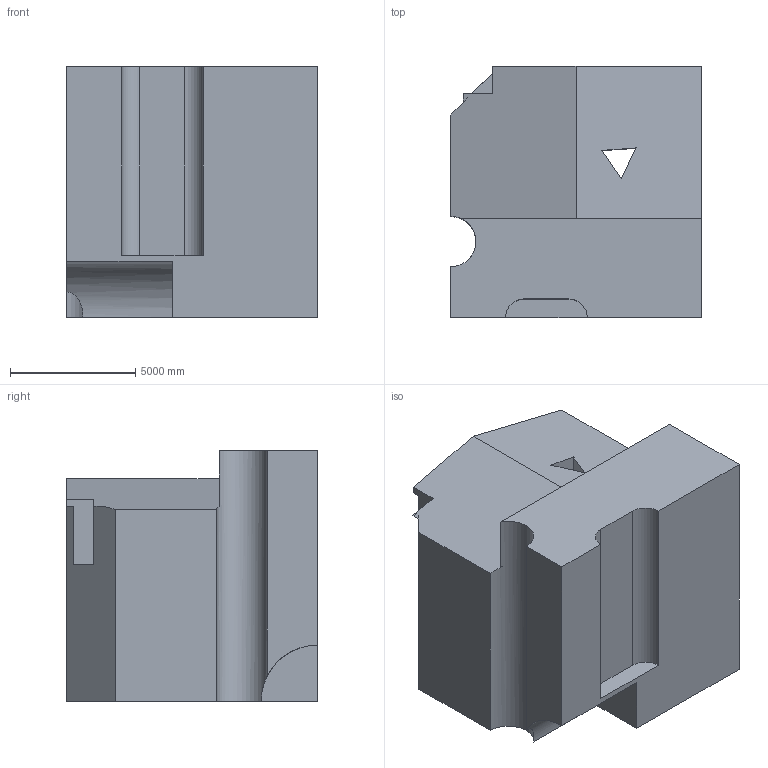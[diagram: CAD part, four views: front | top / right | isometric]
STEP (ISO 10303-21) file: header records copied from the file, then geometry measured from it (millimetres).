
FILE_DESCRIPTION (( 'STEP AP203' ), '1' );
FILE_NAME ('1727.STEP', '2022-08-19T12:07:53', ( 'user' ), ( '' ), 'SwSTEP 2.0', 'SolidWorks 2021', '' );
FILE_SCHEMA (( 'CONFIG_CONTROL_DESIGN' ));
Length unit declared in the file: centimetre
Products named in the file (1): 1727
Bounding box: 10000 x 10000 x 10000 mm (x, y, z)
Volume: 816187035392.5 mm3; surface area: 618246263.2 mm2
Topology: 1 solids, 1 shells, 29 faces, 78 edges, 52 vertices
Faces by surface type: plane 23, cylinder 6
Entity records: 1056 total; most frequent: CARTESIAN_POINT 236, ORIENTED_EDGE 156, DIRECTION 148, EDGE_CURVE 78, VECTOR 64, LINE 64, VERTEX_POINT 52, AXIS2_PLACEMENT_3D 42
